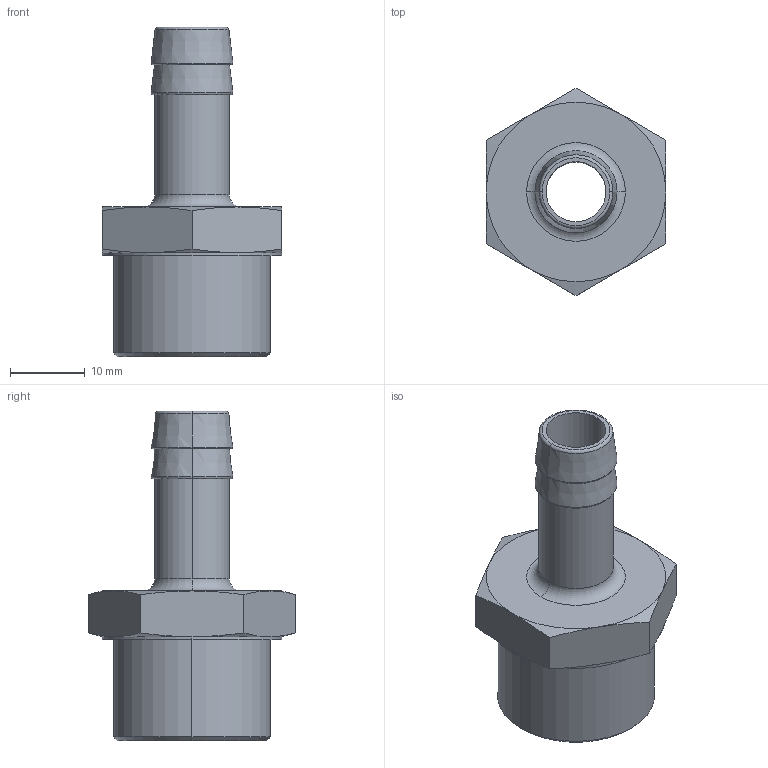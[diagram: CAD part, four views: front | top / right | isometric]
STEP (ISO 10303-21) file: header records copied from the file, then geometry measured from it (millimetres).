
FILE_DESCRIPTION (( 'STEP AP203' ), '1' );
FILE_NAME ('227870.STEP', '2016-04-25T06:49:46', ( '' ), ( '' ), 'SwSTEP 2.0', 'SolidWorks 2016', '' );
FILE_SCHEMA (( 'CONFIG_CONTROL_DESIGN' ));
Length unit declared in the file: millimetre
Products named in the file (1): 227870
Bounding box: 24 x 27.71 x 44 mm (x, y, z)
Volume: 7474.3 mm3; surface area: 4116.5 mm2
Topology: 1 solids, 1 shells, 48 faces, 100 edges, 58 vertices
Faces by surface type: cone 20, plane 12, cylinder 8, torus 8
Entity records: 1423 total; most frequent: CARTESIAN_POINT 327, DIRECTION 228, ORIENTED_EDGE 200, AXIS2_PLACEMENT_3D 103, EDGE_CURVE 100, VERTEX_POINT 58, EDGE_LOOP 54, CIRCLE 54
